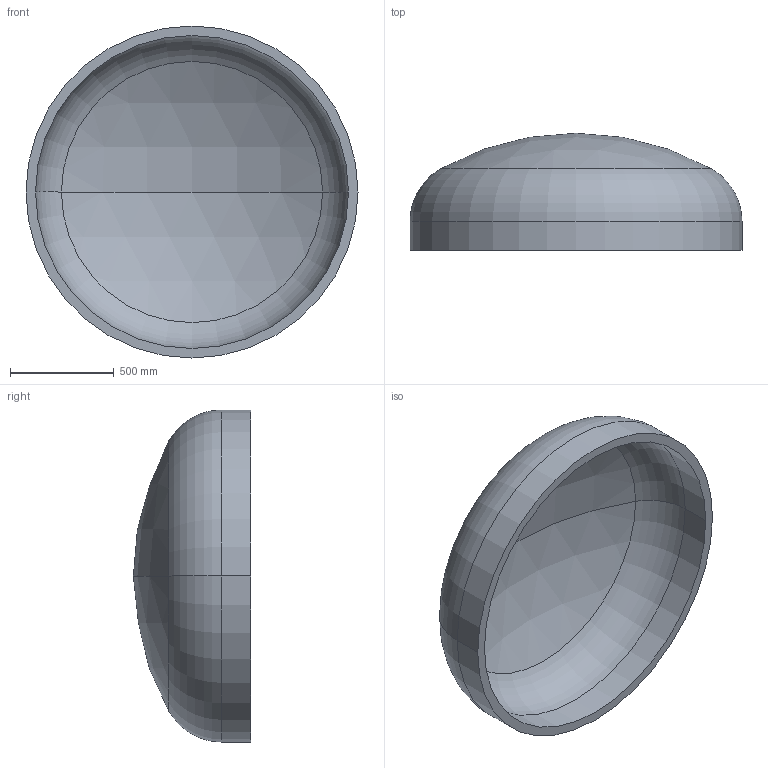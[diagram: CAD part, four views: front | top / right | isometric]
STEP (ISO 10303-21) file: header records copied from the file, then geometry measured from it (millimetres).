
FILE_DESCRIPTION (( 'STEP AP203' ), '1' );
FILE_NAME ('DIN 28013 Korbbogenform_-_Boden DIN 28013 - 1600 x 140 - I - s=46.step', '2016-07-01T11:18:00', ( '' ), ( '' ), 'SwSTEP 2.0', 'SolidWorks 2013', '' );
FILE_SCHEMA (( 'CONFIG_CONTROL_DESIGN' ));
Length unit declared in the file: millimetre
Products named in the file (1): DIN 28013 Korbbogenform_-_Boden DIN 28013 - 1600 x 140 - I - s=46
Bounding box: 1600 x 564.81 x 1600 mm (x, y, z)
Volume: 154668368.2 mm3; surface area: 6953715.1 mm2
Topology: 1 solids, 1 shells, 13 faces, 24 edges, 14 vertices
Faces by surface type: torus 4, cylinder 4, sphere 4, plane 1
Entity records: 407 total; most frequent: DIRECTION 72, CARTESIAN_POINT 52, ORIENTED_EDGE 48, AXIS2_PLACEMENT_3D 34, EDGE_CURVE 24, CIRCLE 20, VERTEX_POINT 14, EDGE_LOOP 14
